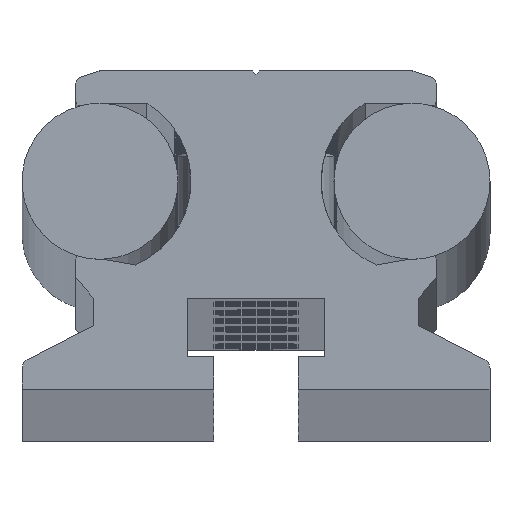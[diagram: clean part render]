
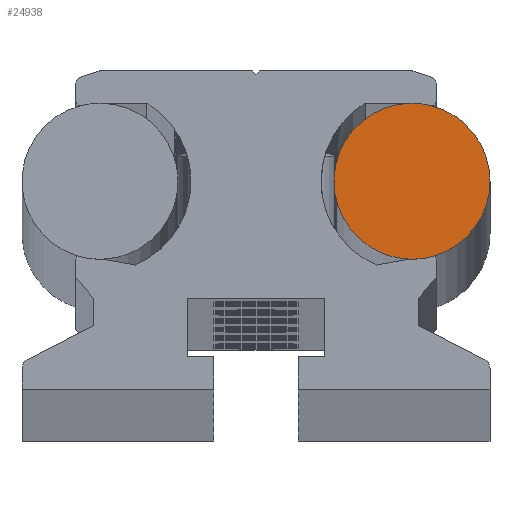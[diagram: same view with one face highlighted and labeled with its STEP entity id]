
A CAD part, top view. The second image highlights one B-rep face of the part: STEP entity #24938.
In plain terms, the highlighted planar face has unit normal (0, 0, 1).
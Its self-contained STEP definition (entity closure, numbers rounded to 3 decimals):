
#1668 = AXIS2_PLACEMENT_3D ( 'NONE', #11835, #11837, #11839 ) ;
#1684 = AXIS2_PLACEMENT_3D ( 'NONE', #11877, #11910, #11912 ) ;
#1923 = AXIS2_PLACEMENT_3D ( 'NONE', #9999, #10014, #10018 ) ;
#1926 = AXIS2_PLACEMENT_3D ( 'NONE', #10039, #9967, #10062 ) ;
#2138 = AXIS2_PLACEMENT_3D ( 'NONE', #3310, #3312, #3314 ) ;
#3310 = CARTESIAN_POINT ( 'NONE',  ( 12., 16., -0.5 ) ) ;
#3312 = DIRECTION ( 'NONE',  ( 0., 0., -1. ) ) ;
#3314 = DIRECTION ( 'NONE',  ( 1., 0., 0. ) ) ;
#6558 = CARTESIAN_POINT ( 'NONE',  ( 18., 16., -0.5 ) ) ;
#7026 = CARTESIAN_POINT ( 'NONE',  ( 13.719, 10.251, -0.5 ) ) ;
#7873 = CARTESIAN_POINT ( 'NONE',  ( 11.819, 10.003, -0.5 ) ) ;
#7877 = CARTESIAN_POINT ( 'NONE',  ( 12., 22., -0.5 ) ) ;
#7904 = CARTESIAN_POINT ( 'NONE',  ( 13.516, 21.805, -0.5 ) ) ;
#9967 = DIRECTION ( 'NONE',  ( 0., 0., 1. ) ) ;
#9999 = CARTESIAN_POINT ( 'NONE',  ( 12., 16., -0.5 ) ) ;
#10014 = DIRECTION ( 'NONE',  ( 0., 0., 1. ) ) ;
#10018 = DIRECTION ( 'NONE',  ( 1., 0., 0. ) ) ;
#10039 = CARTESIAN_POINT ( 'NONE',  ( 12., 16., -0.5 ) ) ;
#10062 = DIRECTION ( 'NONE',  ( 1., 0., 0. ) ) ;
#11835 = CARTESIAN_POINT ( 'NONE',  ( 12., 16., -0.5 ) ) ;
#11837 = DIRECTION ( 'NONE',  ( 0., 0., 1. ) ) ;
#11839 = DIRECTION ( 'NONE',  ( 1., 0., 0. ) ) ;
#11877 = CARTESIAN_POINT ( 'NONE',  ( 12., 16., -0.5 ) ) ;
#11910 = DIRECTION ( 'NONE',  ( 0., 0., -1. ) ) ;
#11912 = DIRECTION ( 'NONE',  ( 1., 0., 0. ) ) ;
#23560 = CARTESIAN_POINT ( 'NONE',  ( 12., 16., -0.5 ) ) ;
#23581 = PLANE ( 'NONE',  #24633 ) ;
#23595 = DIRECTION ( 'NONE',  ( 0., 0., 1. ) ) ;
#23599 = DIRECTION ( 'NONE',  ( 1., 0., 0. ) ) ;
#24449 = FACE_OUTER_BOUND ( 'NONE', #27634, .T. ) ;
#24633 = AXIS2_PLACEMENT_3D ( 'NONE', #23560, #23595, #23599 ) ;
#24938 = ADVANCED_FACE ( 'NONE', ( #24449 ), #23581, .T. ) ;
#27634 = EDGE_LOOP ( 'NONE', ( #29941, #29945, #29947, #29951, #29953 ) ) ;
#29941 = ORIENTED_EDGE ( 'NONE', *, *, #32019, .T. ) ;
#29945 = ORIENTED_EDGE ( 'NONE', *, *, #31480, .T. ) ;
#29947 = ORIENTED_EDGE ( 'NONE', *, *, #32026, .T. ) ;
#29951 = ORIENTED_EDGE ( 'NONE', *, *, #41313, .F. ) ;
#29953 = ORIENTED_EDGE ( 'NONE', *, *, #31492, .F. ) ;
#31480 = EDGE_CURVE ( 'NONE', #37492, #37491, #34648, .T. ) ;
#31492 = EDGE_CURVE ( 'NONE', #37499, #37145, #34689, .T. ) ;
#32019 = EDGE_CURVE ( 'NONE', #37499, #37492, #35210, .T. ) ;
#32026 = EDGE_CURVE ( 'NONE', #37491, #37269, #35213, .T. ) ;
#34648 = CIRCLE ( 'NONE', #1668, 6. ) ;
#34689 = CIRCLE ( 'NONE', #1684, 6. ) ;
#35210 = CIRCLE ( 'NONE', #1923, 6. ) ;
#35213 = CIRCLE ( 'NONE', #1926, 6. ) ;
#35592 = CIRCLE ( 'NONE', #2138, 6. ) ;
#37145 = VERTEX_POINT ( 'NONE', #6558 ) ;
#37269 = VERTEX_POINT ( 'NONE', #7026 ) ;
#37491 = VERTEX_POINT ( 'NONE', #7873 ) ;
#37492 = VERTEX_POINT ( 'NONE', #7877 ) ;
#37499 = VERTEX_POINT ( 'NONE', #7904 ) ;
#41313 = EDGE_CURVE ( 'NONE', #37145, #37269, #35592, .T. ) ;
